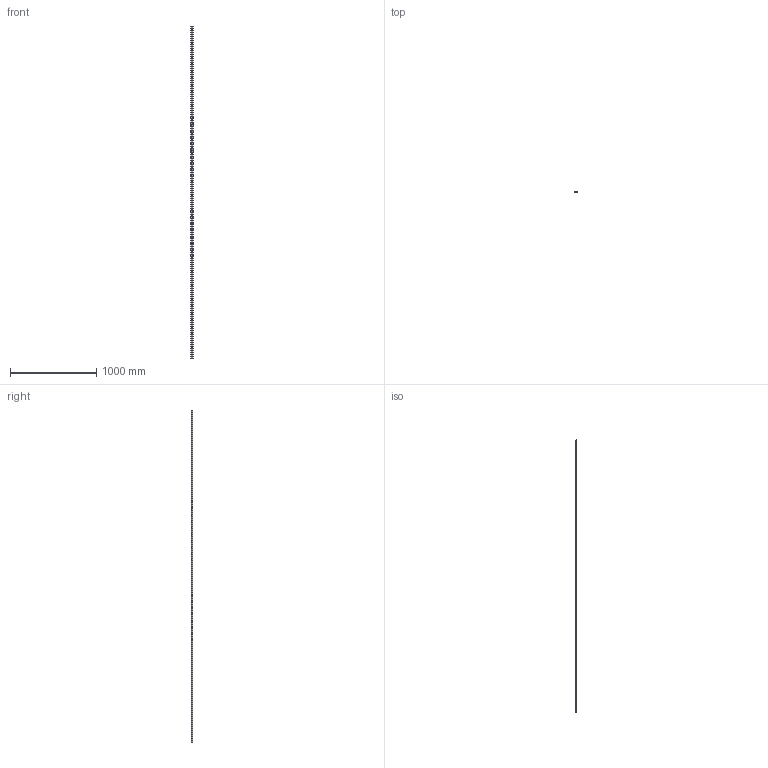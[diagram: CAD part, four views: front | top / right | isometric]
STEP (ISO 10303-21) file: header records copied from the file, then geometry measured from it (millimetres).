
FILE_DESCRIPTION(('STEP AP214'),'1');
FILE_NAME('rail_tex26-3840.stp','2019-03-08T08:29:53',('TraceParts'),('TraceParts S.A.'),'Spatial InterOp 3D',' ',' ');
FILE_SCHEMA(('automotive_design'));
Length unit declared in the file: millimetre
Products named in the file (1): rail_tex26-3840
Bounding box: 26.06 x 14 x 3840 mm (x, y, z)
Volume: 397545 mm3; surface area: 338439 mm2
Topology: 1 solids, 1 shells, 806 faces, 2088 edges, 1392 vertices
Faces by surface type: plane 566, bspline 132, cylinder 108
Entity records: 51233 total; most frequent: CARTESIAN_POINT 25491, ORIENTED_EDGE 4176, DIRECTION 3390, EDGE_CURVE 2088, LINE 1608, VECTOR 1608, VERTEX_POINT 1392, EDGE_LOOP 1010
